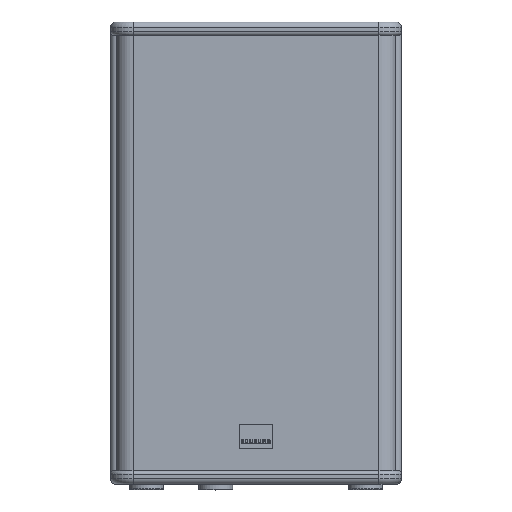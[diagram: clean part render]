
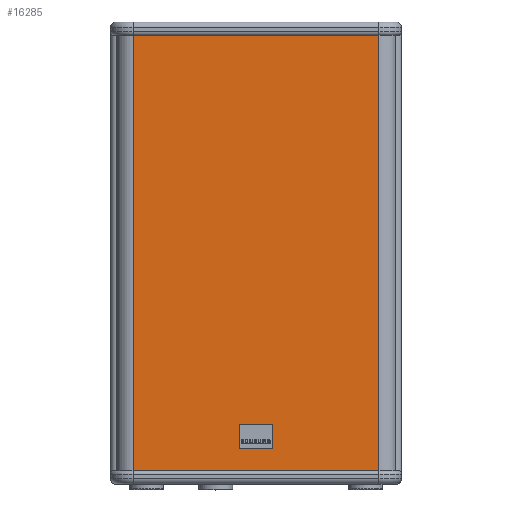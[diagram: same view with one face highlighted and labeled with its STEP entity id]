
A CAD part, top view. The second image highlights one B-rep face of the part: STEP entity #16285.
In plain terms, the highlighted planar face has unit normal (0, 0, 1) as drawn and (0, -1, 0) by its records, which use the part's own axes.
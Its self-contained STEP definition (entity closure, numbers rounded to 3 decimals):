
#301 = CARTESIAN_POINT ( 'NONE',  ( 299., 6.429, 485. ) ) ;
#303 = DIRECTION ( 'NONE',  ( 1., 0., 0. ) ) ;
#304 = VECTOR ( 'NONE', #303, 1000. ) ;
#305 = CARTESIAN_POINT ( 'NONE',  ( 25., 6.5, 485. ) ) ;
#306 = LINE ( 'NONE', #305, #304 ) ;
#312 = DIRECTION ( 'NONE',  ( 0., 0., -1. ) ) ;
#313 = VECTOR ( 'NONE', #312, 1000. ) ;
#315 = CARTESIAN_POINT ( 'NONE',  ( 299., 6.429, 0. ) ) ;
#316 = LINE ( 'NONE', #315, #313 ) ;
#335 = CARTESIAN_POINT ( 'NONE',  ( 299., 6.429, 0. ) ) ;
#353 = DIRECTION ( 'NONE',  ( 1., 0., 0. ) ) ;
#354 = DIRECTION ( 'NONE',  ( 0., -1., 0. ) ) ;
#355 = CARTESIAN_POINT ( 'NONE',  ( 299., 6.429, 0. ) ) ;
#356 = AXIS2_PLACEMENT_3D ( 'NONE', #355, #354, #353 ) ;
#358 = PLANE ( 'NONE',  #356 ) ;
#359 = FACE_OUTER_BOUND ( 'NONE', #16275, .T. ) ;
#361 = DIRECTION ( 'NONE',  ( 1., 0., 0. ) ) ;
#362 = VECTOR ( 'NONE', #361, 1000. ) ;
#363 = CARTESIAN_POINT ( 'NONE',  ( 25., 6.5, 0. ) ) ;
#364 = LINE ( 'NONE', #363, #362 ) ;
#16246 = ORIENTED_EDGE ( 'NONE', *, *, #16250, .F. ) ;
#16247 = ORIENTED_EDGE ( 'NONE', *, *, #16266, .F. ) ;
#16248 = VERTEX_POINT ( 'NONE', #25373 ) ;
#16249 = VERTEX_POINT ( 'NONE', #25372 ) ;
#16250 = EDGE_CURVE ( 'NONE', #16249, #16248, #25371, .T. ) ;
#16251 = VERTEX_POINT ( 'NONE', #335 ) ;
#16266 = EDGE_CURVE ( 'NONE', #16273, #16251, #316, .T. ) ;
#16268 = ORIENTED_EDGE ( 'NONE', *, *, #16272, .F. ) ;
#16272 = EDGE_CURVE ( 'NONE', #16248, #16273, #306, .T. ) ;
#16273 = VERTEX_POINT ( 'NONE', #301 ) ;
#16275 = EDGE_LOOP ( 'NONE', ( #16279, #16247, #16268, #16246 ) ) ;
#16279 = ORIENTED_EDGE ( 'NONE', *, *, #16281, .T. ) ;
#16281 = EDGE_CURVE ( 'NONE', #16249, #16251, #364, .T. ) ;
#16285 = ADVANCED_FACE ( 'NONE', ( #359 ), #358, .T. ) ;
#24864 = DIRECTION ( 'NONE',  ( 0., 0., 1. ) ) ;
#25369 = VECTOR ( 'NONE', #24864, 1000. ) ;
#25370 = CARTESIAN_POINT ( 'NONE',  ( 25., 6.5, 0. ) ) ;
#25371 = LINE ( 'NONE', #25370, #25369 ) ;
#25372 = CARTESIAN_POINT ( 'NONE',  ( 25., 6.5, 0. ) ) ;
#25373 = CARTESIAN_POINT ( 'NONE',  ( 25., 6.5, 485. ) ) ;
